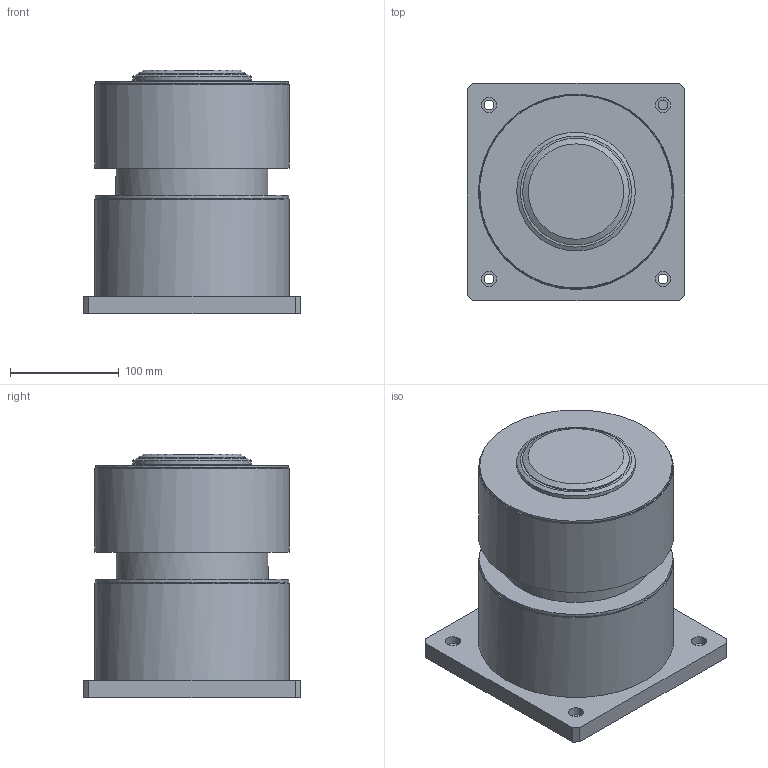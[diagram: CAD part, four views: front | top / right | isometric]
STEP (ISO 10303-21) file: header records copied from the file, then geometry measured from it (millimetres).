
FILE_DESCRIPTION(/* description */ (''),/* implementation_level */ '2;1');
FILE_NAME(/* name */ 'A:\업무자료\03. 개발\홍보자료제작\홈페이지(BKCI)\20181008 이전이력\첨부자료\STEP 파일\EFAU-30\EFFS\EFFS-30-0-UPE-S UP.stp',/* time_stamp */ '2018-11-30T15:19:53+09:00',/* author */ ('idt-l'),/* organization */ (''),/* preprocessor_version */ 'ST-DEVELOPER v16.13',/* originating_system */ 'Autodesk Inventor 2018',/* authorisation */ '');
FILE_SCHEMA (('AUTOMOTIVE_DESIGN { 1 0 10303 214 3 1 1 }'));
Length unit declared in the file: inch
Products named in the file (1): EFFS-30-0-UPE-S UP
Bounding box: 200 x 200 x 224 mm (x, y, z)
Volume: 5443524.8 mm3; surface area: 232749 mm2
Topology: 1 solids, 1 shells, 49 faces, 100 edges, 68 vertices
Faces by surface type: plane 25, cylinder 19, cone 5
Full cylindrical faces by diameter (mm): 6.6 x1, 9 x4, 11 x1, 14 x4, 87.608 x1, 98 x1, 109 x1, 140 x1, 177 x1, 178 x1, 179 x2, 179.2 x1
Entity records: 1223 total; most frequent: DIRECTION 208, CARTESIAN_POINT 174, ORIENTED_EDGE 132, EDGE_LOOP 94, AXIS2_PLACEMENT_3D 92, EDGE_CURVE 66, VERTEX_POINT 58, FACE_OUTER_BOUND 49
